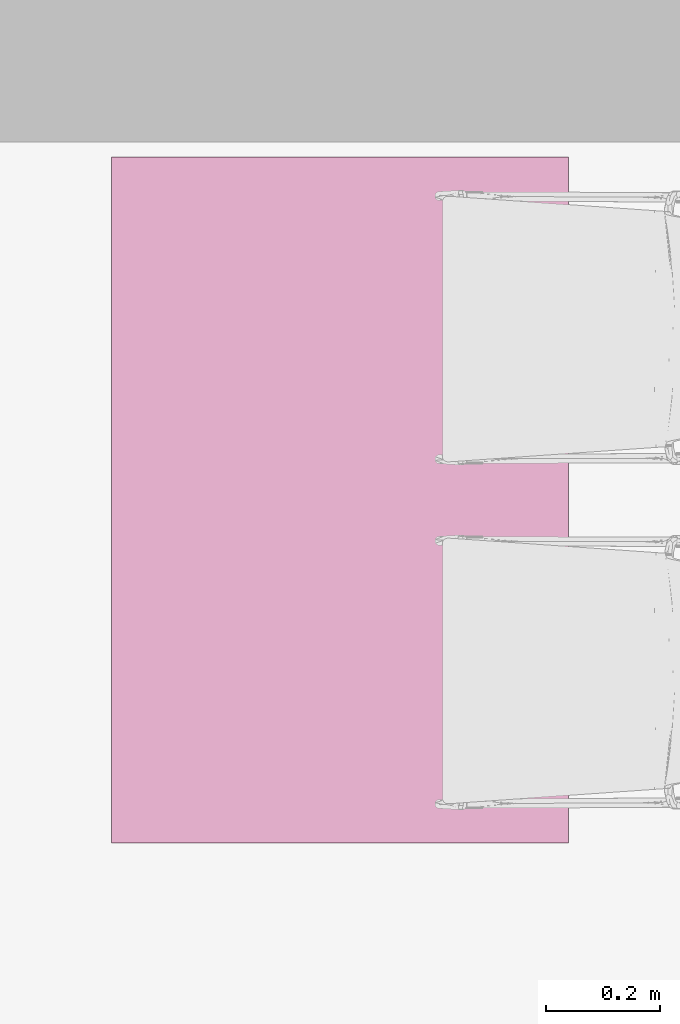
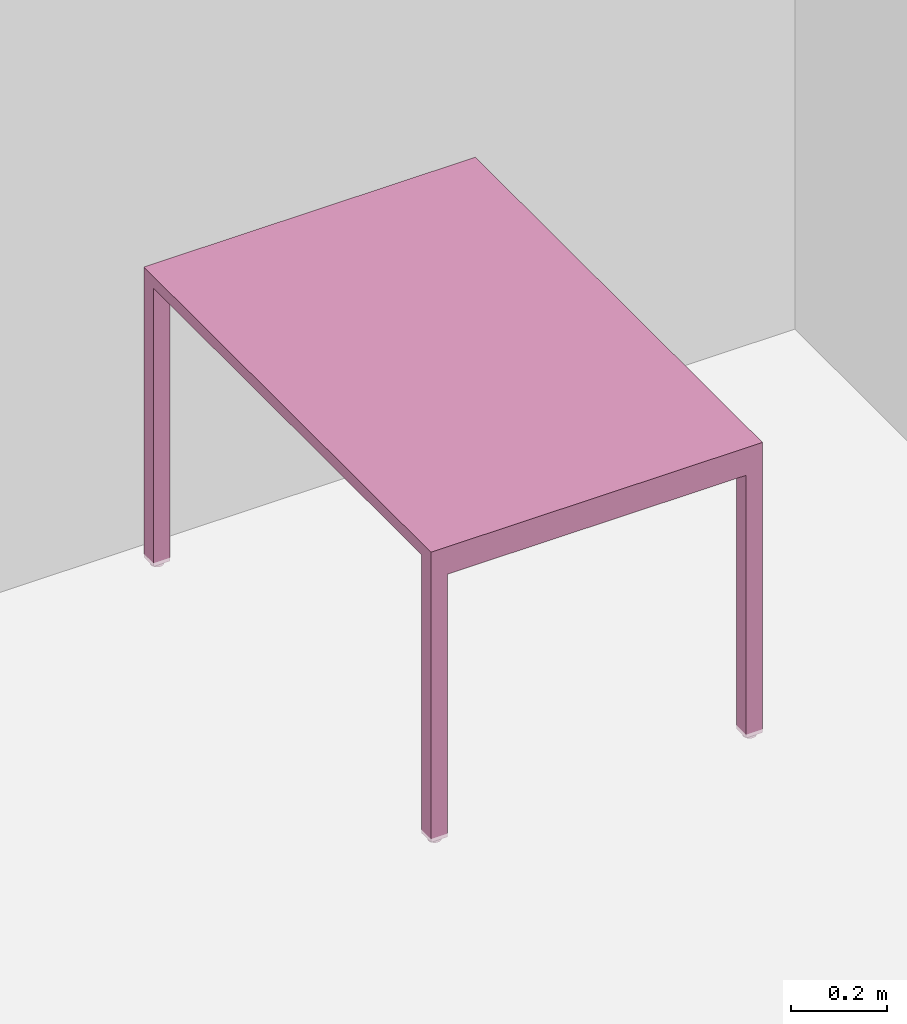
# One storey, part 36 of 48: 1 furnishing.
"""IFC2X3 building model written with IfcOpenShell, lengths in millimetres."""

from ifc_helpers import new_model, entity, si_unit, converted_unit, derived_unit, direction, frame, frame_2d, origin, origin_2d_with_axis, place, context, subcontext, project, spatial, polyline, rectangle, circle, outline, extrude, source, transform, mapped, material, material_list, type_object, type_shapes, element, save


model = new_model("IFC2X3")

# Units and contexts
model_context = context("Model", 3, precision=0.01, world=origin(), true_north=direction((6.12303176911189e-17, 1.0)))
body_context = subcontext(model_context, "Body", "Model", "MODEL_VIEW")
ifc_project = project(units=[si_unit("LENGTHUNIT", "METRE", prefix="MILLI"), si_unit("AREAUNIT", "SQUARE_METRE"), si_unit("VOLUMEUNIT", "CUBIC_METRE"), converted_unit("PLANEANGLEUNIT", "DEGREE", entity("IfcRatioMeasure", 0.0174532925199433), si_unit("PLANEANGLEUNIT", "RADIAN"), dimensions=[0, 0, 0, 0, 0, 0, 0]), si_unit("MASSUNIT", "GRAM", prefix="KILO"), derived_unit("MASSDENSITYUNIT", [(si_unit("MASSUNIT", "GRAM", prefix="KILO"), 1), (si_unit("LENGTHUNIT", "METRE"), -3)]), si_unit("TIMEUNIT", "SECOND"), si_unit("FREQUENCYUNIT", "HERTZ"), si_unit("THERMODYNAMICTEMPERATUREUNIT", "DEGREE_CELSIUS"), derived_unit("THERMALTRANSMITTANCEUNIT", [(si_unit("MASSUNIT", "GRAM", prefix="KILO"), 1), (si_unit("THERMODYNAMICTEMPERATUREUNIT", "KELVIN"), -1), (si_unit("TIMEUNIT", "SECOND"), -3)]), derived_unit("VOLUMETRICFLOWRATEUNIT", [(si_unit("LENGTHUNIT", "METRE"), 3), (si_unit("TIMEUNIT", "SECOND"), -1)]), si_unit("ELECTRICCURRENTUNIT", "AMPERE"), si_unit("ELECTRICVOLTAGEUNIT", "VOLT"), si_unit("POWERUNIT", "WATT"), si_unit("FORCEUNIT", "NEWTON", prefix="KILO"), si_unit("ILLUMINANCEUNIT", "LUX"), si_unit("LUMINOUSFLUXUNIT", "LUMEN"), si_unit("LUMINOUSINTENSITYUNIT", "CANDELA"), derived_unit("USERDEFINED", [(si_unit("MASSUNIT", "GRAM", prefix="KILO"), -1), (si_unit("LENGTHUNIT", "METRE"), -2), (si_unit("TIMEUNIT", "SECOND"), 3), (si_unit("LUMINOUSFLUXUNIT", "LUMEN"), 1)]), derived_unit("LINEARVELOCITYUNIT", [(si_unit("LENGTHUNIT", "METRE"), 1), (si_unit("TIMEUNIT", "SECOND"), -1)]), si_unit("PRESSUREUNIT", "PASCAL"), derived_unit("USERDEFINED", [(si_unit("LENGTHUNIT", "METRE"), -2), (si_unit("MASSUNIT", "GRAM", prefix="KILO"), 1), (si_unit("TIMEUNIT", "SECOND"), -2)]), derived_unit("LINEARFORCEUNIT", [(si_unit("MASSUNIT", "GRAM", prefix="KILO"), 1), (si_unit("LENGTHUNIT", "METRE"), 1), (si_unit("TIMEUNIT", "SECOND"), -2), (si_unit("LENGTHUNIT", "METRE"), -1)]), derived_unit("PLANARFORCEUNIT", [(si_unit("MASSUNIT", "GRAM", prefix="KILO"), 1), (si_unit("LENGTHUNIT", "METRE"), 1), (si_unit("TIMEUNIT", "SECOND"), -2), (si_unit("LENGTHUNIT", "METRE"), -2)])], contexts=[model_context])

# Site, building, storey, space
site_placement = place(None, origin())
site = spatial("IfcSite", under=ifc_project, at=site_placement, Name="Default", CompositionType="ELEMENT")
building_placement = place(site_placement, origin())
building = spatial("IfcBuilding", under=site, at=building_placement, Name="SMA ARH", CompositionType="ELEMENT")
storey_placement = place(building_placement, frame((0.0, 0.0, 6600.0)))
storey = spatial("IfcBuildingStorey", under=building, at=storey_placement, Name="3 Korrus", CompositionType="ELEMENT", Elevation=6599.99999999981)
space_placement = place(storey_placement, origin())
space = spatial("IfcSpace", under=storey, at=space_placement, Name="3-10", CompositionType="ELEMENT", InteriorOrExteriorSpace="INTERNAL")

# Furnishing
ifc_material_1 = material(Name="Metal - Stud Layer")
ifc_material_2 = material(Name="<Unnamed>")
ifc_material_list = material_list([ifc_material_1, ifc_material_2])
furniture_type = type_object("IfcFurnitureType", Name="laud_1200x800:laud_1200x800", material=ifc_material_list)
shared_shape = source(origin(), body_context, "Body", "SweptSolid", [
    extrude(rectangle(XDim=800.0, YDim=1200.0, at=origin_2d_with_axis()), frame((-150.0, 550.0, 720.0), z_axis=(0.0, 0.0, 1.0), x_axis=(-1.0, 0.0, 0.0)), (0.0, 0.0, 1.0), 29.9999999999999),
    extrude(outline(polyline([(-400.0, -365.0), (400.0, -365.0), (400.0, 345.0), (360.0, 345.0), (360.0, -325.0), (-360.0, -325.0), (-360.0, 345.0), (-400.0, 345.0), (-400.0, -365.0)])), frame((-150.0, -50.0, 355.0), z_axis=(0.0, 1.0, 0.0), x_axis=(1.0, 0.0, 0.0)), (0.0, 0.0, 1.0), 40.0000000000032),
    extrude(outline(polyline([(-400.0, -365.0), (400.0, -365.0), (400.0, 345.0), (360.0, 345.0), (360.0, -325.0), (-360.0, -325.0), (-360.0, 345.0), (-400.0, 345.0), (-400.0, -365.0)])), frame((-150.0, 1110.0, 355.0), z_axis=(0.0, 1.0, 0.0), x_axis=(1.0, 0.0, 0.0)), (0.0, 0.0, 1.0), 40.0000000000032),
    extrude(circle(Radius=15.0, at=frame_2d((0.0, 5.07593966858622e-14), x_axis=(1.0, 0.0))), frame((-529.847171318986, -29.9550233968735, 0.0)), (0.0, 0.0, 1.0), 10.0),
    extrude(circle(Radius=15.0, at=origin_2d_with_axis()), frame((-529.847171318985, 1129.95502339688, 0.0)), (0.0, 0.0, 1.0), 10.0),
    extrude(circle(Radius=15.0, at=origin_2d_with_axis()), frame((230.152828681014, -29.9550233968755, 0.0)), (0.0, 0.0, 1.0), 10.0),
    extrude(circle(Radius=15.0, at=origin_2d_with_axis()), frame((230.152828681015, 1129.95502339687, 0.0)), (0.0, 0.0, 1.0), 10.0),
])
type_shapes(furniture_type, [shared_shape])
furnishing_placement = place(space_placement, frame((27294.0, 4828.49999999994, 0.0)))
element("IfcFurnishingElement", 1, at=furnishing_placement, inside=space, type_object=furniture_type, material=ifc_material_1, Name="laud_1200x800:laud_1200x800", ObjectType="laud_1200x800:laud_1200x800", context=body_context, shape_type="MappedRepresentation", body=[
    mapped(shared_shape, transform((0.0, 0.0, 0.0), scale=1.0)),
])

save(model, "model.ifc")
